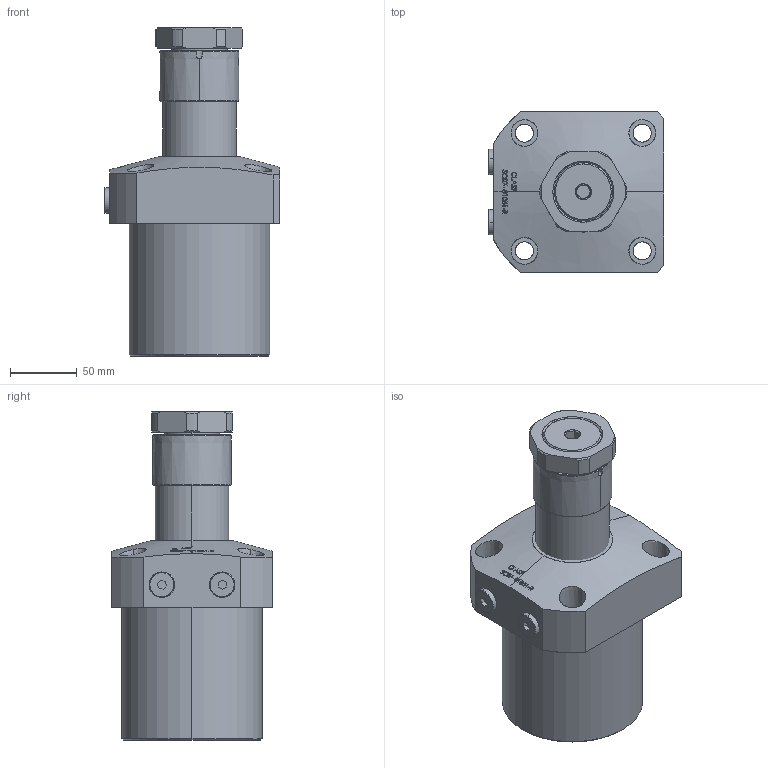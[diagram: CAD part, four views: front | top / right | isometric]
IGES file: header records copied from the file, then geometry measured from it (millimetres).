
Start section: SolidWorks IGES file using analytic representation for surfaces
Global section: file name: D:\karuppas\Clasp\3D model\SWING CYLINDER\Top Mounting swing cylinder\SC07-01051-R\SC07-01051-R.IGS; native system: SolidWorks 2017; preprocessor: SolidWorks 2017; author: pc; date: 220705.232612; units: millimetre
Bounding box: 131 x 120 x 245 mm (x, y, z)
Surface area: 137886.5 mm2 (no closed solid volume)
Topology: 0 solids, 0 shells, 374 faces, 6711 edges, 6711 vertices
Faces by surface type: bspline 262, revolution 112
